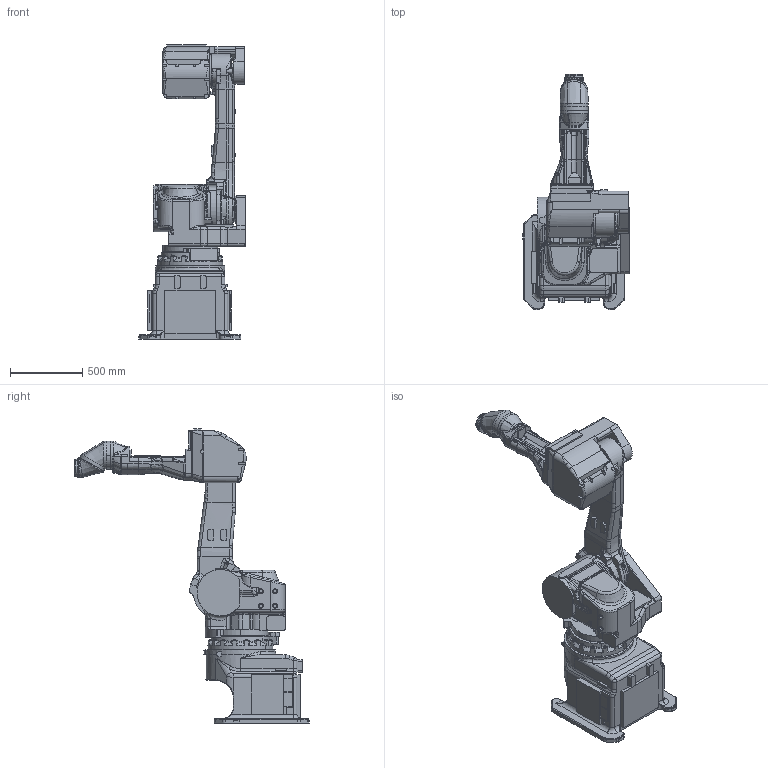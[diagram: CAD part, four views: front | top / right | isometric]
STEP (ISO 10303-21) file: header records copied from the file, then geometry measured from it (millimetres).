
FILE_DESCRIPTION(('CATIA V5 STEP Exchange'),'2;1');
FILE_NAME('F:\☆新しいフォルダ\【K-ROSET】\K-ROSET_モデル\ロボット\※ロボット\※K\☆150522_KJシリーズ一新\受領モデル\KJ\ASSY\○KJ194J-B101(yuka)\KJ194-A001(KJ194-B001)\Part\ASSY\STEP_160223\KJ194-B101.stp','2016-02-23T01:28:38+00:00',('none'),('none'),'CATIA Version 5-6 Release 2013 SP5 HF60','CATIA V5 STEP AP203','none');
FILE_SCHEMA(('CONFIG_CONTROL_DESIGN'));
Products named in the file (1): KJ194-B001
Assembly tree (7 placements, depth 2):
  KJ194-B001
    #57
    #17529
    #39849
    #52587
    #91939
    #92455
    #93573
Bounding box: 735 x 1620 x 2031 mm (x, y, z)
Volume: 314632410.2 mm3; surface area: 6893395.7 mm2
Topology: 8 solids, 10 shells, 1945 faces, 5052 edges, 3115 vertices
Faces by surface type: plane 646, cylinder 603, bspline 434, torus 168, cone 72, sphere 15, extrusion 4, revolution 3
Entity records: 94752 total; most frequent: CARTESIAN_POINT 53379, ORIENTED_EDGE 9974, DIRECTION 5878, EDGE_CURVE 4987, VERTEX_POINT 3115, AXIS2_PLACEMENT_3D 2663, EDGE_LOOP 2002, VECTOR 1961
